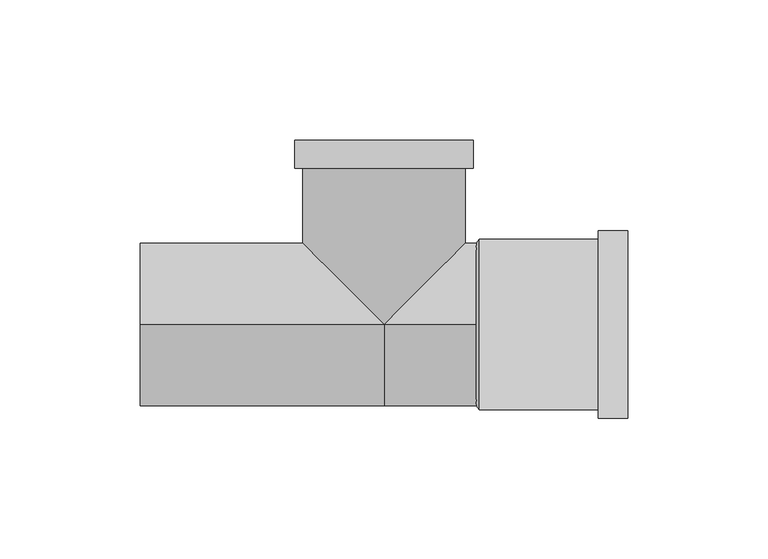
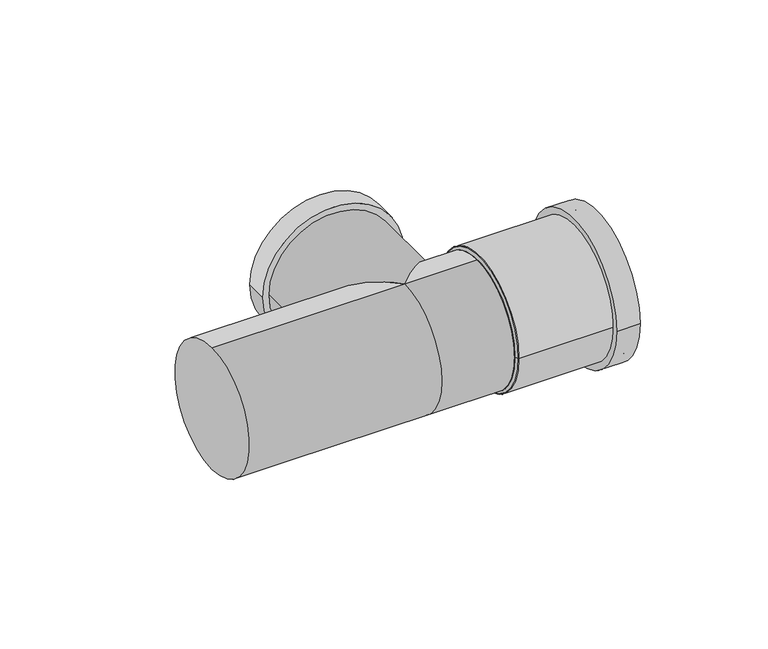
"""IFC4 building model written with IfcOpenShell, lengths in millimetres: pipe fitting geometry, Superdrain SKRE Inspection pipe : Superdrain SKRE Inspection pipe _56."""

from ifc_helpers import new_model, si_unit, point, frame, origin, origin_2d, place, context, project, spatial, polyline, circle_curve, ellipse_curve, trimmed, segment, composite_curve, outline, extrude, source, transform, mapped, element, save
from ifc_brep_helpers import plane_surface, cylinder_surface, revolved_surface, advanced_brep


def pipe_fitting_ea9d4770(model_context):
    return source(origin(), model_context, "Body", "SolidModel", [
        extrude(outline(composite_curve([segment(trimmed(circle_curve(origin_2d(), 30.45), [point((30.45, 0.0))], [point((-30.45, 0.0))], False, "CARTESIAN"), True, "CONTINUOUS"), segment(trimmed(circle_curve(origin_2d(), 30.45), [point((-30.45, 0.0))], [point((30.45, 0.0))], False, "CARTESIAN"), True, "CONTINUOUS")], self_intersect=False), holes=[composite_curve([segment(trimmed(circle_curve(origin_2d(), 29.0), [point((29.0, 0.0))], [point((-29.0, 0.0))], True, "CARTESIAN"), True, "CONTINUOUS"), segment(trimmed(circle_curve(origin_2d(), 29.0), [point((-29.0, 0.0))], [point((29.0, 0.0))], True, "CARTESIAN"), True, "CONTINUOUS")], self_intersect=False)]), frame((34.0, 0.0, 0.0), z_axis=(1.0, 0.0, 0.0), x_axis=(0.0, 1.0, 0.0)), (0.0, 0.0, 1.0), 53.0),
        extrude(outline(composite_curve([segment(trimmed(circle_curve(origin_2d(), 33.495), [point((33.495, 0.0))], [point((-33.495, 0.0))], False, "CARTESIAN"), True, "CONTINUOUS"), segment(trimmed(circle_curve(origin_2d(), 33.495), [point((-33.495, 0.0))], [point((33.495, 0.0))], False, "CARTESIAN"), True, "CONTINUOUS")], self_intersect=False), holes=[composite_curve([segment(trimmed(circle_curve(origin_2d(), 29.0), [point((29.0, 0.0))], [point((-29.0, 0.0))], True, "CARTESIAN"), True, "CONTINUOUS"), segment(trimmed(circle_curve(origin_2d(), 29.0), [point((-29.0, 0.0))], [point((29.0, 0.0))], True, "CARTESIAN"), True, "CONTINUOUS")], self_intersect=False)]), frame((76.4, 0.0, 0.0), z_axis=(1.0, 0.0, 0.0), x_axis=(0.0, 1.0, 0.0)), (0.0, 0.0, 1.0), 10.6),
        advanced_brep(
        [(33.0, 29.0, 0.0), (33.0, -29.0, 0.0), (34.0, 30.45, 0.0), (34.0, -30.45, 0.0)],
        [
            (0, 1, circle_curve(frame((33.0, 0.0, 0.0), z_axis=(-1.0, 0.0, 0.0), x_axis=(0.0, 1.0000000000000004, 0.0)), 29.0)),
            (1, 0, circle_curve(frame((33.0, 0.0, 0.0), z_axis=(-1.0, 0.0, 0.0), x_axis=(0.0, -1.0000000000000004, 0.0)), 29.0)),
            (2, 3, circle_curve(frame((34.0, 0.0, 0.0), z_axis=(1.0, 0.0, 0.0), x_axis=(0.0, -1.0000000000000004, 0.0)), 30.45)),
            (3, 2, circle_curve(frame((34.0, 0.0, 0.0), z_axis=(1.0, 0.0, 0.0), x_axis=(0.0, 1.0000000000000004, 0.0)), 30.45)),
            (3, 1),
            (0, 2),
        ],
        [
            plane_surface(frame((33.0, 0.0, 0.0), z_axis=(-1.0, 0.0, 0.0), x_axis=(0.0, 0.0, -1.0))),
            plane_surface(frame((34.0, 0.0, 0.0), z_axis=(1.0, 0.0, 0.0), x_axis=(0.0, 0.0, -1.0))),
            revolved_surface(polyline([(33.0, 29.0, 0.0), (34.0, 30.45, 0.0)]), (13.0, 0.0, 0.0), (1.0000000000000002, 0.0, 0.0)),
            revolved_surface(polyline([(33.0, -29.0, 0.0), (34.0, -30.45, 0.0)]), (13.0, 0.0, 0.0), (1.0000000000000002, 0.0, 0.0)),
        ],
        [
            (0, [[1, 2]]),
            (1, [[3, 4]]),
            (2, [[-4, 5, -1, 6]]),
            (3, [[-3, -6, -2, -5]]),
        ],
    ),
        advanced_brep(
        [(-87.0, 0.0, -29.0), (-87.0, 0.0, 29.0), (0.0, 0.0, -29.0), (0.0, 0.0, 29.0), (-29.0, 29.0, 0.0), (34.0, 0.0, -29.0), (34.0, 0.0, 29.0), (29.0, 29.0, 0.0), (31.9, 55.8, 0.0), (-31.9, 55.8, 0.0), (29.0, 55.8, 0.0), (-29.0, 55.8, 0.0), (31.9, 65.8, 0.0), (-31.9, 65.8, 0.0)],
        [
            (0, 1, circle_curve(frame((-87.0, 0.0, 0.0), z_axis=(-1.0, 0.0, 0.0), x_axis=(0.0, 0.0, 1.0)), 29.0)),
            (1, 0, circle_curve(frame((-87.0, 0.0, 0.0), z_axis=(-1.0, 0.0, 0.0), x_axis=(0.0, 0.0, 1.0)), 29.0)),
            (0, 2),
            (2, 3, circle_curve(frame((0.0, 0.0, 0.0), z_axis=(-1.0, 0.0, 0.0), x_axis=(0.0, 0.0, 1.0)), 29.0)),
            (3, 1),
            (3, 4, ellipse_curve(frame((0.0, 0.0, 0.0), z_axis=(-0.707106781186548, -0.7071067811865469, 0.0), x_axis=(-0.7071067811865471, 0.7071067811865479, 0.0)), 41.0121933, 29.0)),
            (4, 2, ellipse_curve(frame((0.0, 0.0, 0.0), z_axis=(-0.707106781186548, -0.7071067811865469, 0.0), x_axis=(-0.7071067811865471, 0.7071067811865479, 0.0)), 41.0121933, 29.0)),
            (5, 6, circle_curve(frame((34.0, 0.0, 0.0), z_axis=(1.0, 0.0, 0.0), x_axis=(0.0, 0.0, 1.0)), 29.0)),
            (6, 5, circle_curve(frame((34.0, 0.0, 0.0), z_axis=(1.0, 0.0, 0.0), x_axis=(0.0, 0.0, 1.0)), 29.0)),
            (2, 5),
            (6, 3),
            (2, 7, ellipse_curve(frame((0.0, 0.0, 0.0), z_axis=(0.7071067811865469, -0.7071067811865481, 0.0), x_axis=(-0.7071067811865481, -0.7071067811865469, 0.0)), 41.0121933, 29.0)),
            (7, 3, ellipse_curve(frame((0.0, 0.0, 0.0), z_axis=(0.7071067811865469, -0.7071067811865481, 0.0), x_axis=(-0.7071067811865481, -0.7071067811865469, 0.0)), 41.0121933, 29.0)),
            (8, 9, circle_curve(frame((0.0, 55.8, 0.0), z_axis=(0.0, -1.0, 0.0), x_axis=(-1.0, 0.0, 0.0)), 31.9)),
            (9, 8, circle_curve(frame((0.0, 55.8, 0.0), z_axis=(0.0, -1.0, 0.0), x_axis=(-1.0, 0.0, 0.0)), 31.9)),
            (10, 11, circle_curve(frame((0.0, 55.8, 0.0), z_axis=(0.0, 1.0, 0.0), x_axis=(0.0, 0.0, -1.0)), 29.0)),
            (11, 10, circle_curve(frame((0.0, 55.8, 0.0), z_axis=(0.0, 1.0, 0.0), x_axis=(0.0, 0.0, 1.0)), 29.0)),
            (12, 13, circle_curve(frame((0.0, 65.8, 0.0), z_axis=(0.0, 1.0, 0.0), x_axis=(-1.0, 0.0, 0.0)), 31.9)),
            (13, 12, circle_curve(frame((0.0, 65.8, 0.0), z_axis=(0.0, 1.0, 0.0), x_axis=(-1.0, 0.0, 0.0)), 31.9)),
            (8, 12),
            (13, 9),
            (4, 11),
            (10, 7),
        ],
        [
            plane_surface(frame((-87.0, 0.0, 0.0), z_axis=(-1.0, 0.0, 0.0), x_axis=(0.0, -1.0, 0.0))),
            cylinder_surface(frame((-87.0, 0.0, 0.0), z_axis=(-1.0, 0.0, 0.0), x_axis=(0.0, 0.0, 1.0)), 29.0),
            plane_surface(frame((34.0, 0.0, 0.0), z_axis=(1.0, 0.0, 0.0), x_axis=(0.0, -1.0, 0.0))),
            cylinder_surface(frame((0.0, 0.0, 0.0), z_axis=(-1.0, 0.0, 0.0), x_axis=(0.0, 0.0, 1.0)), 29.0),
            plane_surface(frame((0.0, 55.8, 0.0), z_axis=(0.0, -1.0, 0.0), x_axis=(0.0, 0.0, 1.0))),
            plane_surface(frame((0.0, 65.8, 0.0), z_axis=(0.0, 1.0, 0.0), x_axis=(0.0, 0.0, 1.0))),
            cylinder_surface(frame((0.0, 55.8, 0.0), z_axis=(0.0, -1.0, 0.0), x_axis=(-1.0, 0.0, 0.0)), 31.9),
            cylinder_surface(frame((0.0, 0.0, 0.0), z_axis=(0.0, 1.0, 0.0), x_axis=(0.0, 0.0, -1.0)), 29.0),
            cylinder_surface(frame((0.0, 0.0, 0.0), z_axis=(0.0, 1.0, 0.0), x_axis=(0.0, 0.0, 1.0)), 29.0),
        ],
        [
            (0, [[1, 2]]),
            (1, [[-1, 3, 4, 5]]),
            (1, [[-2, -5, 6, 7, -3]]),
            (2, [[8, 9]]),
            (3, [[-4, 10, -9, 11]]),
            (3, [[-8, -10, 12, 13, -11]]),
            (4, [[14, 15], [16, 17]]),
            (5, [[18, 19]]),
            (6, [[-14, 20, -19, 21]]),
            (6, [[-15, -21, -18, -20]]),
            (7, [[22, -16, 23, -12, -7]]),
            (8, [[-22, -6, -13, -23, -17]]),
        ],
    ),
    ])


if __name__ == "__main__":
    model = new_model("IFC4")
    model_context = context("Model", 3, world=origin())
    ifc_project = project(units=[si_unit("LENGTHUNIT", "METRE", prefix="MILLI")], contexts=[model_context])
    site = spatial("IfcSite", under=ifc_project)
    building = spatial("IfcBuilding", under=site)
    placement = place(None, origin())
    pipe_fitting_shape = pipe_fitting_ea9d4770(model_context)
    element("IfcPipeFitting", 1, ObjectType="Superdrain SKRE Inspection pipe : Superdrain SKRE Inspection pipe _56", at=placement, inside=building, context=model_context, shape_type="MappedRepresentation", body=[
        mapped(pipe_fitting_shape, transform((0.0, 0.0, 0.0), x_axis=(1.0, 0.0, 0.0), y_axis=(0.0, 1.0, 0.0), z_axis=(0.0, 0.0, 1.0))),
    ])
    save(model, "model.ifc")
